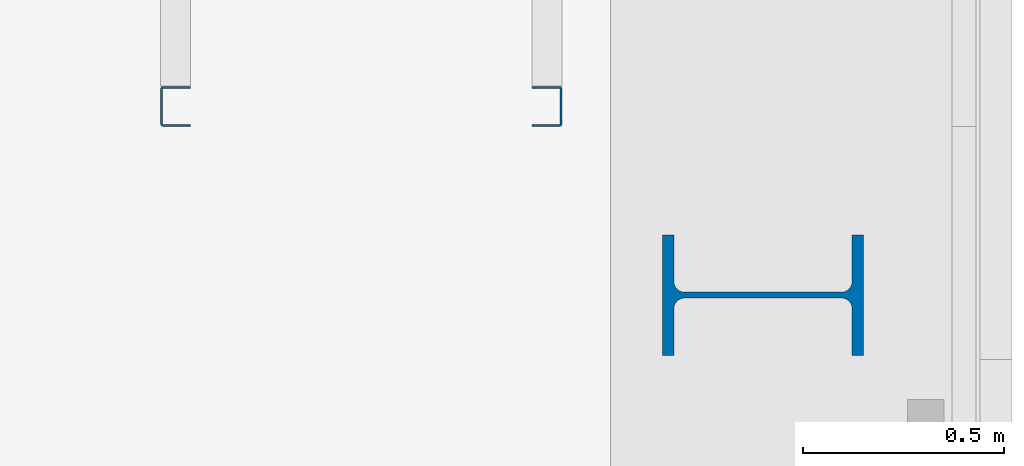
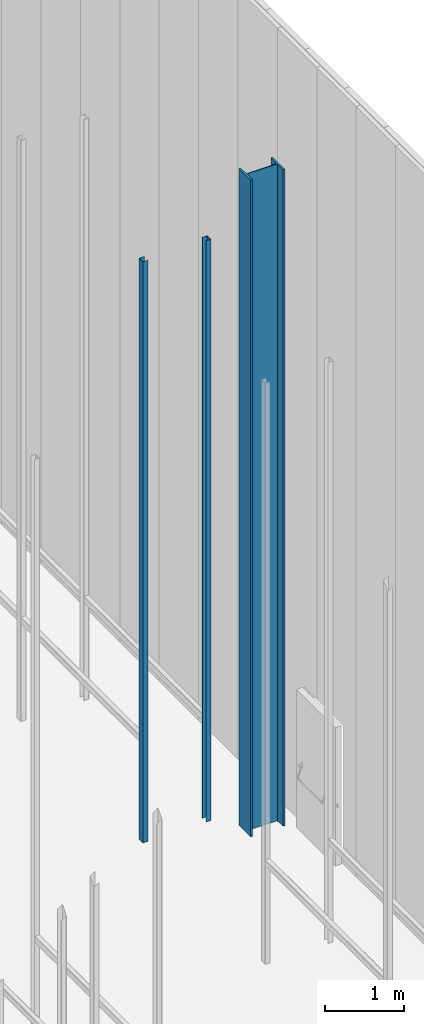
# One storey, part 38 of 302: 3 columns.
"""IFC2X3 building model written with IfcOpenShell, lengths in metres."""

from ifc_helpers import new_model, entity, si_unit, converted_unit, derived_unit, direction, frame, frame_2d, origin, place, context, subcontext, project, spatial, polyline, circle_curve, parameter, trimmed, segment, composite_curve, i_section, outline, extrude, source, transform, mapped, material, type_object, type_shapes, element, save


model = new_model("IFC2X3")

# Units and contexts
model_context = context("Model", 3, precision=1e-05, world=origin(), true_north=direction((6.12303176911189e-17, 1.0)))
body_context = subcontext(model_context, "Body", "Model", "MODEL_VIEW")
ifc_project = project(units=[si_unit("LENGTHUNIT", "METRE"), si_unit("AREAUNIT", "SQUARE_METRE"), si_unit("VOLUMEUNIT", "CUBIC_METRE"), converted_unit("PLANEANGLEUNIT", "DEGREE", entity("IfcRatioMeasure", 0.0174532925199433), si_unit("PLANEANGLEUNIT", "RADIAN"), dimensions=[0, 0, 0, 0, 0, 0, 0]), si_unit("MASSUNIT", "GRAM", prefix="KILO"), derived_unit("MASSDENSITYUNIT", [(si_unit("MASSUNIT", "GRAM", prefix="KILO"), 1), (si_unit("LENGTHUNIT", "METRE"), -3)]), derived_unit("MOMENTOFINERTIAUNIT", [(si_unit("LENGTHUNIT", "METRE"), 4)]), si_unit("TIMEUNIT", "SECOND"), si_unit("FREQUENCYUNIT", "HERTZ"), si_unit("THERMODYNAMICTEMPERATUREUNIT", "DEGREE_CELSIUS"), derived_unit("THERMALTRANSMITTANCEUNIT", [(si_unit("MASSUNIT", "GRAM", prefix="KILO"), 1), (si_unit("THERMODYNAMICTEMPERATUREUNIT", "KELVIN"), -1), (si_unit("TIMEUNIT", "SECOND"), -3)]), derived_unit("VOLUMETRICFLOWRATEUNIT", [(si_unit("LENGTHUNIT", "METRE"), 3), (si_unit("TIMEUNIT", "SECOND"), -1)]), si_unit("ELECTRICCURRENTUNIT", "AMPERE"), si_unit("ELECTRICVOLTAGEUNIT", "VOLT"), si_unit("POWERUNIT", "WATT"), si_unit("FORCEUNIT", "NEWTON", prefix="KILO"), si_unit("ILLUMINANCEUNIT", "LUX"), si_unit("LUMINOUSFLUXUNIT", "LUMEN"), si_unit("LUMINOUSINTENSITYUNIT", "CANDELA"), derived_unit("USERDEFINED", [(si_unit("MASSUNIT", "GRAM", prefix="KILO"), -1), (si_unit("LENGTHUNIT", "METRE"), -2), (si_unit("TIMEUNIT", "SECOND"), 3), (si_unit("LUMINOUSFLUXUNIT", "LUMEN"), 1)]), derived_unit("LINEARVELOCITYUNIT", [(si_unit("LENGTHUNIT", "METRE"), 1), (si_unit("TIMEUNIT", "SECOND"), -1)]), si_unit("PRESSUREUNIT", "PASCAL"), derived_unit("USERDEFINED", [(si_unit("LENGTHUNIT", "METRE"), -2), (si_unit("MASSUNIT", "GRAM", prefix="KILO"), 1), (si_unit("TIMEUNIT", "SECOND"), -2)]), derived_unit("LINEARFORCEUNIT", [(si_unit("MASSUNIT", "GRAM", prefix="KILO"), 1), (si_unit("LENGTHUNIT", "METRE"), 1), (si_unit("TIMEUNIT", "SECOND"), -2), (si_unit("LENGTHUNIT", "METRE"), -1)]), derived_unit("PLANARFORCEUNIT", [(si_unit("MASSUNIT", "GRAM", prefix="KILO"), 1), (si_unit("LENGTHUNIT", "METRE"), 1), (si_unit("TIMEUNIT", "SECOND"), -2), (si_unit("LENGTHUNIT", "METRE"), -2)])], contexts=[model_context])

# Site, building, storey
site_placement = place(None, origin())
site = spatial("IfcSite", under=ifc_project, at=site_placement, Name="Default", CompositionType="ELEMENT")
building_placement = place(site_placement, origin())
building = spatial("IfcBuilding", under=site, at=building_placement, CompositionType="ELEMENT")
storey_placement = place(building_placement, frame((0.0, 0.0, -1.3)))
storey = spatial("IfcBuildingStorey", under=building, at=storey_placement, Name="00_EG", CompositionType="ELEMENT", Elevation=-1.3)

# Columns
ifc_material = material(Name="Metall - Baustahl S235")
column_type_1 = type_object("IfcColumnType", Name="HEB Stütze:HEB 500", PredefinedType="COLUMN", material=ifc_material)
shared_shape_1 = source(origin(), body_context, "Body", "SweptSolid", [
    extrude(i_section(OverallWidth=0.3, OverallDepth=0.5, WebThickness=0.0145, FlangeThickness=0.028, FilletRadius=0.027, at=frame_2d((0.0, -2.77555756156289e-17), x_axis=(0.0, 1.0))), frame((0.0, 0.0, -0.0300000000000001), z_axis=(0.0, 0.0, 1.0), x_axis=(0.0, -1.0, 0.0)), (0.0, 0.0, 1.0), 10.175),
])
type_shapes(column_type_1, [shared_shape_1])
column_1_placement = place(storey_placement, frame((-177.890111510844, 48.328088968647, 1.3), z_axis=(0.0, 0.0, 1.0), x_axis=(0.0, -1.0, 0.0)))
element("IfcColumn", 1, at=column_1_placement, inside=storey, type_object=column_type_1, material=ifc_material, Name="HEB Stütze:HEB 500", ObjectType="HEB Stütze:HEB 500", context=body_context, shape_type="MappedRepresentation", body=[
    mapped(shared_shape_1, transform((0.0, 0.0, 0.0), scale=1.0)),
])
column_type_2 = type_object("IfcColumnType", Name="Leichter Stahl Schlossschrauben Stütze:C 100", PredefinedType="COLUMN", material=ifc_material)
shared_shape_2 = source(origin(), body_context, "Body", "SweptSolid", [
    extrude(outline(composite_curve([segment(polyline([(-0.0469749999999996, -0.0499999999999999), (0.0214500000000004, -0.0499999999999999)]), True, "CONTINUOUS"), segment(trimmed(circle_curve(frame_2d((0.0214500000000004, -0.0434249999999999), x_axis=(0.0, -1.0)), 0.00657500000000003), [parameter(0.0)], [parameter(89.9999999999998)], True, "PARAMETER"), True, "CONTINUOUS"), segment(polyline([(0.0280250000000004, -0.0434249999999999), (0.0280250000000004, 0.0434250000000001)]), True, "CONTINUOUS"), segment(trimmed(circle_curve(frame_2d((0.0214500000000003, 0.0434250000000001), x_axis=(1.0, 0.0)), 0.0065750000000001), [parameter(0.0)], [parameter(89.9999999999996)], True, "PARAMETER"), True, "CONTINUOUS"), segment(polyline([(0.0214500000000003, 0.0500000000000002), (-0.0469750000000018, 0.0500000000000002)]), True, "CONTINUOUS"), segment(polyline([(-0.0469750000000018, 0.0500000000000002), (-0.0469750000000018, 0.0450000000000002)]), True, "CONTINUOUS"), segment(polyline([(-0.0469750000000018, 0.0450000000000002), (0.0214500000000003, 0.0450000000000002)]), True, "CONTINUOUS"), segment(trimmed(circle_curve(frame_2d((0.0214500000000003, 0.0434249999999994), x_axis=(0.0, 1.0)), 0.00157500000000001), [parameter(269.999999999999)], [parameter(0.0)], True, "PARAMETER"), False, "CONTINUOUS"), segment(polyline([(0.0230250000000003, 0.0434249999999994), (0.0230250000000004, -0.0434249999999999)]), True, "CONTINUOUS"), segment(trimmed(circle_curve(frame_2d((0.0214500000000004, -0.0434249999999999), x_axis=(1.0, 0.0)), 0.00157500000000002), [parameter(270.0)], [parameter(0.0)], True, "PARAMETER"), False, "CONTINUOUS"), segment(polyline([(0.0214500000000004, -0.0449999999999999), (-0.0469749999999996, -0.0449999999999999)]), True, "CONTINUOUS"), segment(polyline([(-0.0469749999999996, -0.0449999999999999), (-0.0469749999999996, -0.0499999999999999)]), True, "CONTINUOUS")], self_intersect=False)), frame((0.0499999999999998, 0.0280250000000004, -0.0300000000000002), z_axis=(0.0, 0.0, 1.0), x_axis=(0.0, -1.0, 0.0)), (0.0, 0.0, 1.0), 9.0),
])
type_shapes(column_type_2, [shared_shape_2])
column_2_placement = place(storey_placement, frame((-179.390111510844, 48.848088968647, 1.3), z_axis=(0.0, 0.0, 1.0), x_axis=(0.0, -1.0, 0.0)))
element("IfcColumn", 2, at=column_2_placement, inside=storey, type_object=column_type_2, material=ifc_material, Name="Leichter Stahl Schlossschrauben Stütze:C 100", ObjectType="Leichter Stahl Schlossschrauben Stütze:C 100", context=body_context, shape_type="MappedRepresentation", body=[
    mapped(shared_shape_2, transform((0.0, 0.0, 0.0), scale=1.0)),
])
column_type_3 = type_object("IfcColumnType", Name="Leichter Stahl Schlossschrauben Stütze:C 100", PredefinedType="COLUMN", material=ifc_material)
shared_shape_3 = source(origin(), body_context, "Body", "SweptSolid", [
    extrude(outline(composite_curve([segment(polyline([(-0.0214500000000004, -0.0499999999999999), (0.0469749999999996, -0.0499999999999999)]), True, "CONTINUOUS"), segment(polyline([(0.0469749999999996, -0.0499999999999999), (0.0469749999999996, -0.0449999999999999)]), True, "CONTINUOUS"), segment(polyline([(0.0469749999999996, -0.0449999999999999), (-0.0214500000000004, -0.045)]), True, "CONTINUOUS"), segment(trimmed(circle_curve(frame_2d((-0.0214500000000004, -0.043425), x_axis=(0.0, -1.0)), 0.00157500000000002), [parameter(270.0)], [parameter(0.0)], True, "PARAMETER"), False, "CONTINUOUS"), segment(polyline([(-0.0230250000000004, -0.0434249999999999), (-0.0230250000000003, 0.0434249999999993)]), True, "CONTINUOUS"), segment(trimmed(circle_curve(frame_2d((-0.0214500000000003, 0.0434249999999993), x_axis=(-1.0, 0.0)), 0.00157500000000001), [parameter(269.999999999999)], [parameter(0.0)], True, "PARAMETER"), False, "CONTINUOUS"), segment(polyline([(-0.0214500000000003, 0.0450000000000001), (0.0469750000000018, 0.0450000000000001)]), True, "CONTINUOUS"), segment(polyline([(0.0469750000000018, 0.0450000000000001), (0.0469750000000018, 0.0500000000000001)]), True, "CONTINUOUS"), segment(polyline([(0.0469750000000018, 0.0500000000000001), (-0.0214500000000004, 0.0500000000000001)]), True, "CONTINUOUS"), segment(trimmed(circle_curve(frame_2d((-0.0214500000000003, 0.043425), x_axis=(0.0, 1.0)), 0.0065750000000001), [parameter(0.0)], [parameter(89.9999999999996)], True, "PARAMETER"), True, "CONTINUOUS"), segment(polyline([(-0.0280250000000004, 0.043425), (-0.0280250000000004, -0.043425)]), True, "CONTINUOUS"), segment(trimmed(circle_curve(frame_2d((-0.0214500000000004, -0.0434249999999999), x_axis=(-1.0, 0.0)), 0.00657500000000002), [parameter(0.0)], [parameter(89.9999999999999)], True, "PARAMETER"), True, "CONTINUOUS")], self_intersect=False)), frame((0.0499999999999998, -0.0280250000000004, -0.0300000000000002), z_axis=(0.0, 0.0, 1.0), x_axis=(0.0, -1.0, 0.0)), (0.0, 0.0, 1.0), 9.0),
])
type_shapes(column_type_3, [shared_shape_3])
column_3_placement = place(storey_placement, frame((-178.390111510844, 48.848088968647, 1.3), z_axis=(0.0, 0.0, 1.0), x_axis=(0.0, -1.0, 0.0)))
element("IfcColumn", 3, at=column_3_placement, inside=storey, type_object=column_type_3, material=ifc_material, Name="Leichter Stahl Schlossschrauben Stütze:C 100", ObjectType="Leichter Stahl Schlossschrauben Stütze:C 100", context=body_context, shape_type="MappedRepresentation", body=[
    mapped(shared_shape_3, transform((0.0, 0.0, 0.0), scale=1.0)),
])

save(model, "model.ifc")
